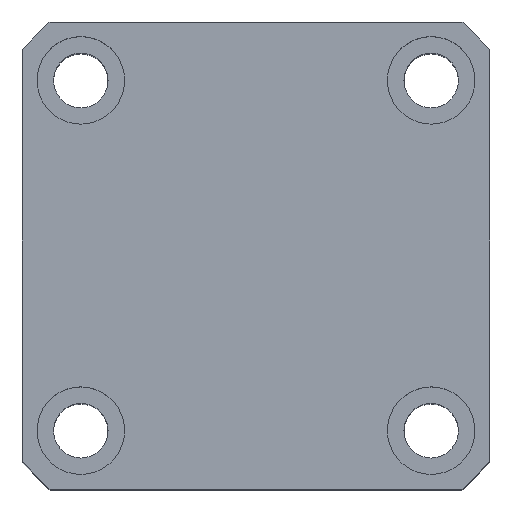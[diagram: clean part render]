
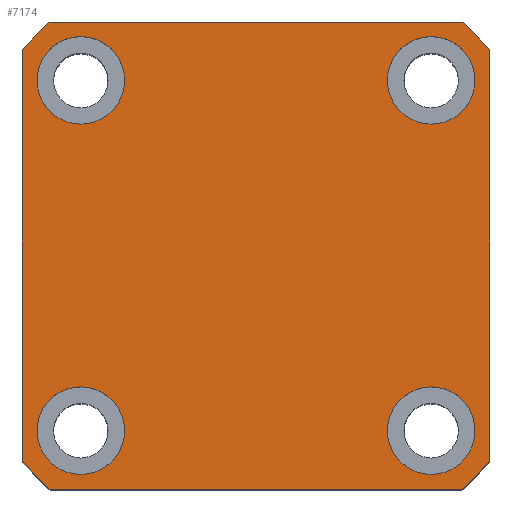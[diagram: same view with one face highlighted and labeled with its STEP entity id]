
A CAD part, top view. The second image highlights one B-rep face of the part: STEP entity #7174.
In plain terms, the highlighted planar face has unit normal (0, 0, 1) as drawn and (1, 0, 0) by its records, which use the part's own axes.
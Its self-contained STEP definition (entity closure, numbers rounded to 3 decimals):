
#285 = VERTEX_POINT ( 'NONE', #591 ) ;
#394 = AXIS2_PLACEMENT_3D ( 'NONE', #7950, #2986, #8776 ) ;
#481 = CIRCLE ( 'NONE', #5299, 32. ) ;
#571 = CARTESIAN_POINT ( 'NONE',  ( 55., 21.166, 24. ) ) ;
#591 = CARTESIAN_POINT ( 'NONE',  ( 55., -18., -22.5 ) ) ;
#666 = FACE_BOUND ( 'NONE', #9466, .T. ) ;
#682 = ORIENTED_EDGE ( 'NONE', *, *, #3960, .F. ) ;
#711 = VERTEX_POINT ( 'NONE', #1449 ) ;
#799 = DIRECTION ( 'NONE',  ( 1., 0., 0. ) ) ;
#838 = EDGE_LOOP ( 'NONE', ( #4050, #5993, #8520, #4145, #3629, #5042, #10576, #5945 ) ) ;
#914 = AXIS2_PLACEMENT_3D ( 'NONE', #10027, #4109, #4928 ) ;
#999 = EDGE_CURVE ( 'NONE', #6506, #8325, #7284, .T. ) ;
#1093 = EDGE_CURVE ( 'NONE', #3853, #5327, #9222, .T. ) ;
#1270 = EDGE_CURVE ( 'NONE', #5069, #711, #2118, .T. ) ;
#1446 = FACE_BOUND ( 'NONE', #2198, .T. ) ;
#1449 = CARTESIAN_POINT ( 'NONE',  ( 55., 18., 13.5 ) ) ;
#1525 = EDGE_LOOP ( 'NONE', ( #8937, #7629 ) ) ;
#1606 = AXIS2_PLACEMENT_3D ( 'NONE', #7359, #2410, #8182 ) ;
#1757 = CIRCLE ( 'NONE', #7228, 4.5 ) ;
#1856 = LINE ( 'NONE', #10450, #10143 ) ;
#1891 = AXIS2_PLACEMENT_3D ( 'NONE', #7870, #2918, #8687 ) ;
#1940 = ORIENTED_EDGE ( 'NONE', *, *, #999, .F. ) ;
#1961 = VERTEX_POINT ( 'NONE', #8794 ) ;
#2021 = EDGE_CURVE ( 'NONE', #8750, #3853, #1856, .T. ) ;
#2118 = CIRCLE ( 'NONE', #8116, 4.5 ) ;
#2121 = DIRECTION ( 'NONE',  ( 0., 1., 0. ) ) ;
#2162 = CARTESIAN_POINT ( 'NONE',  ( 55., 18., 22.5 ) ) ;
#2198 = EDGE_LOOP ( 'NONE', ( #2360, #6513 ) ) ;
#2360 = ORIENTED_EDGE ( 'NONE', *, *, #4135, .F. ) ;
#2410 = DIRECTION ( 'NONE',  ( 1., 0., 0. ) ) ;
#2498 = VERTEX_POINT ( 'NONE', #2580 ) ;
#2580 = CARTESIAN_POINT ( 'NONE',  ( 55., 24., 21.166 ) ) ;
#2621 = AXIS2_PLACEMENT_3D ( 'NONE', #4480, #10265, #5319 ) ;
#2653 = EDGE_CURVE ( 'NONE', #5327, #8143, #5364, .T. ) ;
#2660 = DIRECTION ( 'NONE',  ( 0., 0., -1. ) ) ;
#2918 = DIRECTION ( 'NONE',  ( 1., 0., 0. ) ) ;
#2983 = DIRECTION ( 'NONE',  ( 0., 0., -1. ) ) ;
#2986 = DIRECTION ( 'NONE',  ( 1., 0., 0. ) ) ;
#3146 = VECTOR ( 'NONE', #2660, 1000. ) ;
#3160 = CIRCLE ( 'NONE', #7054, 32. ) ;
#3385 = LINE ( 'NONE', #7903, #9727 ) ;
#3422 = CARTESIAN_POINT ( 'NONE',  ( 55., 0., 0. ) ) ;
#3614 = DIRECTION ( 'NONE',  ( 1., 0., 0. ) ) ;
#3629 = ORIENTED_EDGE ( 'NONE', *, *, #2021, .T. ) ;
#3650 = VERTEX_POINT ( 'NONE', #7296 ) ;
#3853 = VERTEX_POINT ( 'NONE', #9959 ) ;
#3878 = CARTESIAN_POINT ( 'NONE',  ( 55., 18., -22.5 ) ) ;
#3890 = DIRECTION ( 'NONE',  ( 0., 0., -1. ) ) ;
#3894 = CARTESIAN_POINT ( 'NONE',  ( 55., 24., -21.166 ) ) ;
#3960 = EDGE_CURVE ( 'NONE', #8325, #6506, #4689, .T. ) ;
#4050 = ORIENTED_EDGE ( 'NONE', *, *, #7113, .T. ) ;
#4109 = DIRECTION ( 'NONE',  ( 1., 0., 0. ) ) ;
#4135 = EDGE_CURVE ( 'NONE', #711, #5069, #10019, .T. ) ;
#4145 = ORIENTED_EDGE ( 'NONE', *, *, #8135, .T. ) ;
#4255 = DIRECTION ( 'NONE',  ( 0., 0., -1. ) ) ;
#4366 = EDGE_CURVE ( 'NONE', #8143, #1961, #3160, .T. ) ;
#4451 = CARTESIAN_POINT ( 'NONE',  ( 55., -18., 18. ) ) ;
#4480 = CARTESIAN_POINT ( 'NONE',  ( 55., 0., 0. ) ) ;
#4622 = DIRECTION ( 'NONE',  ( 1., 0., 0. ) ) ;
#4649 = CARTESIAN_POINT ( 'NONE',  ( 55., 18., 18. ) ) ;
#4689 = CIRCLE ( 'NONE', #6142, 4.5 ) ;
#4747 = DIRECTION ( 'NONE',  ( 0., 0., -1. ) ) ;
#4804 = AXIS2_PLACEMENT_3D ( 'NONE', #6422, #6733, #3890 ) ;
#4814 = ORIENTED_EDGE ( 'NONE', *, *, #9174, .F. ) ;
#4824 = VECTOR ( 'NONE', #7002, 1000. ) ;
#4928 = DIRECTION ( 'NONE',  ( 0., 0., -1. ) ) ;
#4945 = CIRCLE ( 'NONE', #2621, 32. ) ;
#5006 = CIRCLE ( 'NONE', #1606, 4.5 ) ;
#5042 = ORIENTED_EDGE ( 'NONE', *, *, #1093, .T. ) ;
#5069 = VERTEX_POINT ( 'NONE', #2162 ) ;
#5072 = FACE_BOUND ( 'NONE', #5181, .T. ) ;
#5181 = EDGE_LOOP ( 'NONE', ( #9471, #4814 ) ) ;
#5281 = DIRECTION ( 'NONE',  ( 0., 0., -1. ) ) ;
#5299 = AXIS2_PLACEMENT_3D ( 'NONE', #3422, #9198, #4255 ) ;
#5319 = DIRECTION ( 'NONE',  ( 0., 0., -1. ) ) ;
#5327 = VERTEX_POINT ( 'NONE', #7558 ) ;
#5364 = LINE ( 'NONE', #10102, #3146 ) ;
#5541 = CARTESIAN_POINT ( 'NONE',  ( 55., -18., 22.5 ) ) ;
#5547 = CARTESIAN_POINT ( 'NONE',  ( 55., 0., 0. ) ) ;
#5552 = VERTEX_POINT ( 'NONE', #9585 ) ;
#5767 = CARTESIAN_POINT ( 'NONE',  ( 55., 0., 0. ) ) ;
#5792 = DIRECTION ( 'NONE',  ( 0., -1., 0. ) ) ;
#5945 = ORIENTED_EDGE ( 'NONE', *, *, #4366, .T. ) ;
#5993 = ORIENTED_EDGE ( 'NONE', *, *, #6697, .T. ) ;
#6142 = AXIS2_PLACEMENT_3D ( 'NONE', #8542, #3614, #9386 ) ;
#6172 = CARTESIAN_POINT ( 'NONE',  ( 55., 24., 24. ) ) ;
#6235 = EDGE_CURVE ( 'NONE', #10479, #2498, #7035, .T. ) ;
#6383 = PLANE ( 'NONE',  #10335 ) ;
#6422 = CARTESIAN_POINT ( 'NONE',  ( 55., 0., 0. ) ) ;
#6506 = VERTEX_POINT ( 'NONE', #3878 ) ;
#6513 = ORIENTED_EDGE ( 'NONE', *, *, #1270, .F. ) ;
#6585 = DIRECTION ( 'NONE',  ( 0., 0., -1. ) ) ;
#6697 = EDGE_CURVE ( 'NONE', #7992, #10479, #4945, .T. ) ;
#6733 = DIRECTION ( 'NONE',  ( 1., 0., 0. ) ) ;
#7002 = DIRECTION ( 'NONE',  ( 0., 0., 1. ) ) ;
#7019 = FACE_BOUND ( 'NONE', #1525, .T. ) ;
#7035 = LINE ( 'NONE', #6172, #4824 ) ;
#7054 = AXIS2_PLACEMENT_3D ( 'NONE', #5767, #799, #6585 ) ;
#7113 = EDGE_CURVE ( 'NONE', #1961, #7992, #3385, .T. ) ;
#7174 = ADVANCED_FACE ( 'NONE', ( #5072, #7019, #666, #1446, #7265 ), #6383, .T. ) ;
#7191 = CIRCLE ( 'NONE', #7864, 4.5 ) ;
#7228 = AXIS2_PLACEMENT_3D ( 'NONE', #4451, #10225, #5281 ) ;
#7265 = FACE_OUTER_BOUND ( 'NONE', #838, .T. ) ;
#7284 = CIRCLE ( 'NONE', #914, 4.5 ) ;
#7296 = CARTESIAN_POINT ( 'NONE',  ( 55., -18., 13.5 ) ) ;
#7359 = CARTESIAN_POINT ( 'NONE',  ( 55., -18., -18. ) ) ;
#7558 = CARTESIAN_POINT ( 'NONE',  ( 55., -24., 21.166 ) ) ;
#7629 = ORIENTED_EDGE ( 'NONE', *, *, #9808, .F. ) ;
#7725 = EDGE_CURVE ( 'NONE', #285, #5552, #5006, .T. ) ;
#7864 = AXIS2_PLACEMENT_3D ( 'NONE', #9566, #4622, #10405 ) ;
#7870 = CARTESIAN_POINT ( 'NONE',  ( 55., -18., -18. ) ) ;
#7903 = CARTESIAN_POINT ( 'NONE',  ( 55., 24., -24. ) ) ;
#7930 = VERTEX_POINT ( 'NONE', #5541 ) ;
#7950 = CARTESIAN_POINT ( 'NONE',  ( 55., 18., 18. ) ) ;
#7992 = VERTEX_POINT ( 'NONE', #10544 ) ;
#8091 = CARTESIAN_POINT ( 'NONE',  ( 55., 18., -13.5 ) ) ;
#8116 = AXIS2_PLACEMENT_3D ( 'NONE', #4649, #10552, #2983 ) ;
#8135 = EDGE_CURVE ( 'NONE', #2498, #8750, #481, .T. ) ;
#8143 = VERTEX_POINT ( 'NONE', #10031 ) ;
#8182 = DIRECTION ( 'NONE',  ( 0., 0., -1. ) ) ;
#8325 = VERTEX_POINT ( 'NONE', #8091 ) ;
#8520 = ORIENTED_EDGE ( 'NONE', *, *, #6235, .T. ) ;
#8542 = CARTESIAN_POINT ( 'NONE',  ( 55., 18., -18. ) ) ;
#8621 = EDGE_CURVE ( 'NONE', #3650, #7930, #7191, .T. ) ;
#8687 = DIRECTION ( 'NONE',  ( 0., 0., -1. ) ) ;
#8750 = VERTEX_POINT ( 'NONE', #571 ) ;
#8767 = CIRCLE ( 'NONE', #1891, 4.5 ) ;
#8776 = DIRECTION ( 'NONE',  ( 0., 0., -1. ) ) ;
#8794 = CARTESIAN_POINT ( 'NONE',  ( 55., -21.166, -24. ) ) ;
#8937 = ORIENTED_EDGE ( 'NONE', *, *, #8621, .F. ) ;
#9174 = EDGE_CURVE ( 'NONE', #5552, #285, #8767, .T. ) ;
#9198 = DIRECTION ( 'NONE',  ( 1., 0., 0. ) ) ;
#9222 = CIRCLE ( 'NONE', #4804, 32. ) ;
#9386 = DIRECTION ( 'NONE',  ( 0., 0., -1. ) ) ;
#9466 = EDGE_LOOP ( 'NONE', ( #1940, #682 ) ) ;
#9471 = ORIENTED_EDGE ( 'NONE', *, *, #7725, .F. ) ;
#9566 = CARTESIAN_POINT ( 'NONE',  ( 55., -18., 18. ) ) ;
#9585 = CARTESIAN_POINT ( 'NONE',  ( 55., -18., -13.5 ) ) ;
#9696 = DIRECTION ( 'NONE',  ( 1., 0., 0. ) ) ;
#9727 = VECTOR ( 'NONE', #2121, 1000. ) ;
#9808 = EDGE_CURVE ( 'NONE', #7930, #3650, #1757, .T. ) ;
#9959 = CARTESIAN_POINT ( 'NONE',  ( 55., -21.166, 24. ) ) ;
#10019 = CIRCLE ( 'NONE', #394, 4.5 ) ;
#10027 = CARTESIAN_POINT ( 'NONE',  ( 55., 18., -18. ) ) ;
#10031 = CARTESIAN_POINT ( 'NONE',  ( 55., -24., -21.166 ) ) ;
#10102 = CARTESIAN_POINT ( 'NONE',  ( 55., -24., 24. ) ) ;
#10143 = VECTOR ( 'NONE', #5792, 1000. ) ;
#10225 = DIRECTION ( 'NONE',  ( 1., 0., 0. ) ) ;
#10265 = DIRECTION ( 'NONE',  ( 1., 0., 0. ) ) ;
#10335 = AXIS2_PLACEMENT_3D ( 'NONE', #5547, #9696, #4747 ) ;
#10405 = DIRECTION ( 'NONE',  ( 0., 0., -1. ) ) ;
#10450 = CARTESIAN_POINT ( 'NONE',  ( 55., 24., 24. ) ) ;
#10479 = VERTEX_POINT ( 'NONE', #3894 ) ;
#10544 = CARTESIAN_POINT ( 'NONE',  ( 55., 21.166, -24. ) ) ;
#10552 = DIRECTION ( 'NONE',  ( 1., 0., 0. ) ) ;
#10576 = ORIENTED_EDGE ( 'NONE', *, *, #2653, .T. ) ;
